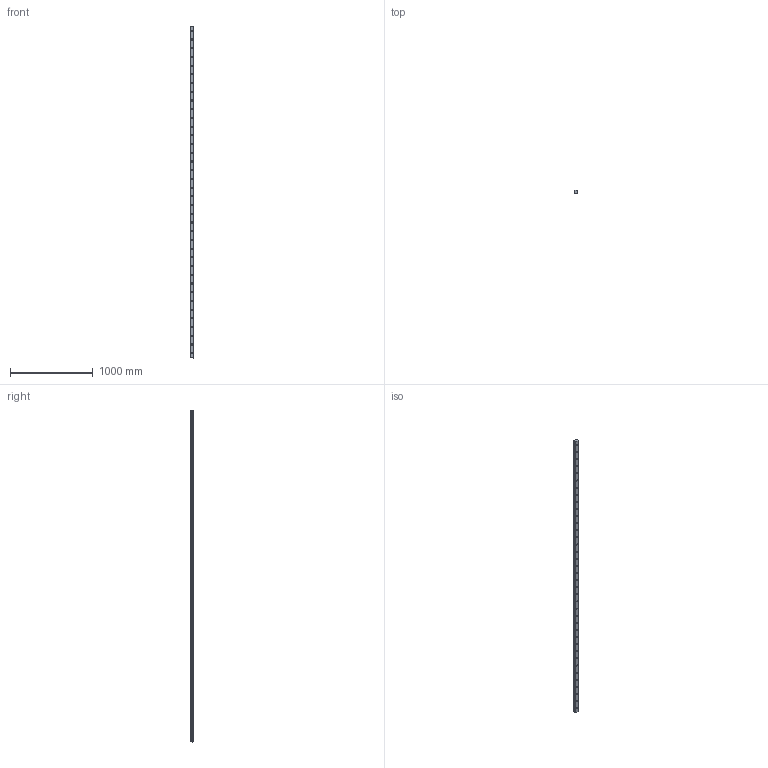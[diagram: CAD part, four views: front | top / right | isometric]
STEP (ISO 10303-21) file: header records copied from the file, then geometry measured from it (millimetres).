
FILE_DESCRIPTION (( 'STEP AP214' ), '1' );
FILE_NAME ('R45-4000.STEP', '2019-06-03T00:32:27', ( '' ), ( '' ), 'SwSTEP 2.0', 'SolidWorks 2016', '' );
FILE_SCHEMA (( 'AUTOMOTIVE_DESIGN' ));
Length unit declared in the file: millimetre
Products named in the file (1): R45-4000
Bounding box: 45 x 38 x 4000 mm (x, y, z)
Volume: 5860318.5 mm3; surface area: 747934.3 mm2
Topology: 1 solids, 1 shells, 216 faces, 528 edges, 352 vertices
Faces by surface type: cylinder 158, plane 58
Entity records: 9090 total; most frequent: DIRECTION 1278, CARTESIAN_POINT 1097, ORIENTED_EDGE 1056, AXIS2_PLACEMENT_3D 533, EDGE_CURVE 528, VERTEX_POINT 352, EDGE_LOOP 330, CIRCLE 316
